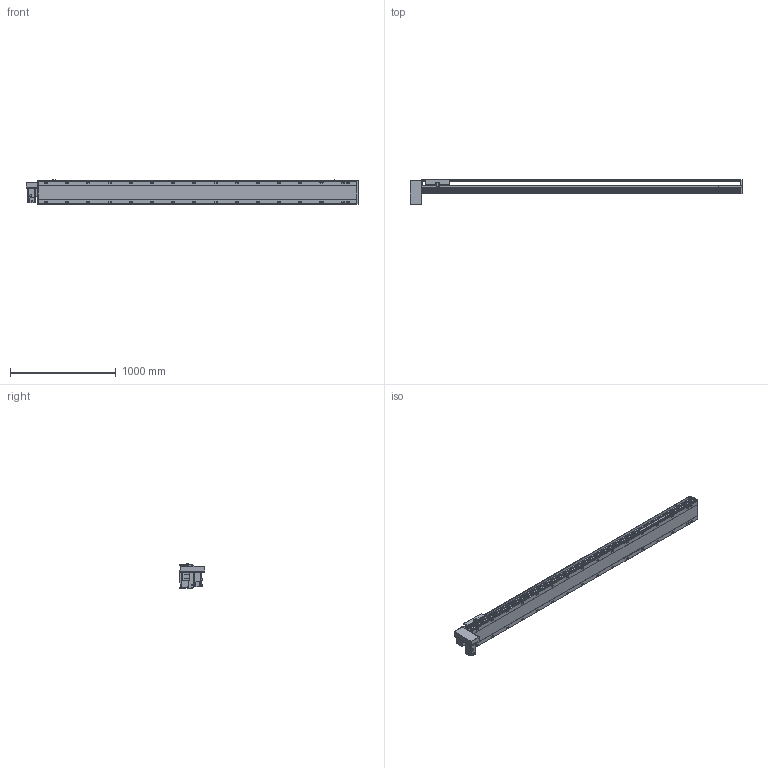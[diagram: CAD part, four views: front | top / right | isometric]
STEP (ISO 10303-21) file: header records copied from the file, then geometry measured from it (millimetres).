
FILE_DESCRIPTION(/* description */ ('STEP AP214'),/* implementation_level */ '2;1');
FILE_NAME(/* name */ 'PBS220-P40-S2650-RD-T75-C1-N(0)',/* time_stamp */ '2022-06-13T02:46:54+02:00',/* author */ ('License CC BY-ND 4.0'),/* organization */ ('CADENAS'),/* preprocessor_version */ 'ST-DEVELOPER v18.102',/* originating_system */ 'PARTsolutions',/* authorisation */ ' ');
FILE_SCHEMA (('AUTOMOTIVE_DESIGN {1 0 10303 214 3 1 1}'));
Length unit declared in the file: millimetre
Products named in the file (7): PBS220-P40-S2650-RD-T75-C1-N(0); PBS220_sensor; PBS220_plant; PBS220_sliser; T75-p1; PBS220T-RD_motors; PBS220-S2650()_body
Assembly tree (8 placements, depth 2):
  PBS220-P40-S2650-RD-T75-C1-N(0)
    PBS220_sensor  x3
    PBS220_plant
    PBS220_sliser
    T75-p1
    PBS220T-RD_motors
    PBS220-S2650()_body
Bounding box: 3134 x 239 x 238.5 mm (x, y, z)
Volume: 43672659.5 mm3; surface area: 3993191.7 mm2
Topology: 8 solids, 8 shells, 1010 faces, 2620 edges, 1702 vertices
Faces by surface type: plane 630, cylinder 324, cone 56
Full cylindrical faces by diameter (mm): 2.013 x4, 4.5 x14, 4.917 x4, 6 x7, 6.647 x8, 8 x10, 8.376 x32, 8.5 x32, 10 x6, 14 x32, 38 x2, 40 x1, 70 x1
Entity records: 28125 total; most frequent: CARTESIAN_POINT 5020, DIRECTION 4887, ORIENTED_EDGE 4394, EDGE_CURVE 2197, AXIS2_PLACEMENT_3D 1763, VERTEX_POINT 1544, LINE 1361, VECTOR 1361
